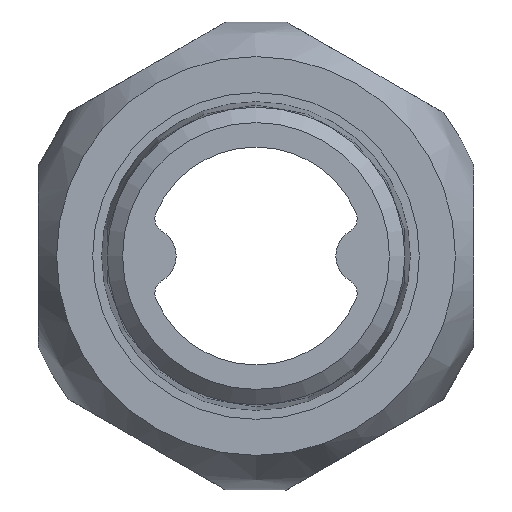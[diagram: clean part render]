
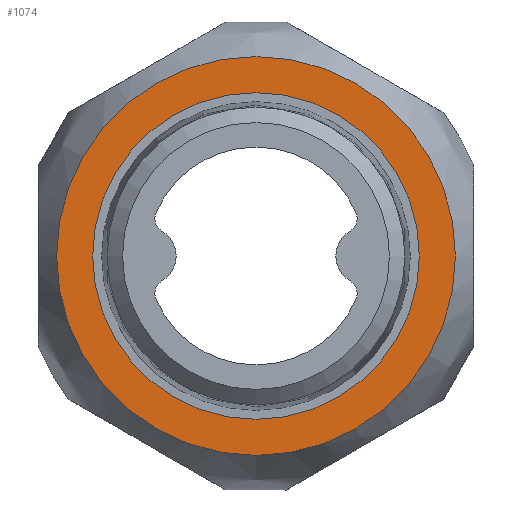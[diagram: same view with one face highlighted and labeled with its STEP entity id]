
A CAD part, left-side view. The second image highlights one B-rep face of the part: STEP entity #1074.
In plain terms, the highlighted planar face has unit normal (-1, 0, 0).
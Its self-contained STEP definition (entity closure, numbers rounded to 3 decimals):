
#88=FACE_BOUND('',#223,.T.);
#105=PLANE('',#1280);
#151=FACE_OUTER_BOUND('',#222,.T.);
#222=EDGE_LOOP('',(#838,#839));
#223=EDGE_LOOP('',(#840,#841));
#384=CIRCLE('',#1272,13.735);
#385=CIRCLE('',#1273,13.735);
#388=CIRCLE('',#1278,11.25);
#389=CIRCLE('',#1279,11.25);
#479=VERTEX_POINT('',#2225);
#480=VERTEX_POINT('',#2229);
#483=VERTEX_POINT('',#2238);
#484=VERTEX_POINT('',#2240);
#609=EDGE_CURVE('',#479,#480,#384,.T.);
#610=EDGE_CURVE('',#480,#479,#385,.T.);
#614=EDGE_CURVE('',#484,#483,#388,.T.);
#615=EDGE_CURVE('',#483,#484,#389,.T.);
#838=ORIENTED_EDGE('',*,*,#610,.F.);
#839=ORIENTED_EDGE('',*,*,#609,.F.);
#840=ORIENTED_EDGE('',*,*,#614,.T.);
#841=ORIENTED_EDGE('',*,*,#615,.T.);
#1074=ADVANCED_FACE('',(#151,#88),#105,.T.);
#1272=AXIS2_PLACEMENT_3D('',#2230,#1509,#1510);
#1273=AXIS2_PLACEMENT_3D('',#2231,#1511,#1512);
#1278=AXIS2_PLACEMENT_3D('',#2241,#1522,#1523);
#1279=AXIS2_PLACEMENT_3D('',#2242,#1524,#1525);
#1280=AXIS2_PLACEMENT_3D('',#2243,#1526,#1527);
#1509=DIRECTION('center_axis',(1.,0.,0.));
#1510=DIRECTION('ref_axis',(0.,1.,0.));
#1511=DIRECTION('center_axis',(1.,0.,0.));
#1512=DIRECTION('ref_axis',(0.,1.,0.));
#1522=DIRECTION('center_axis',(1.,0.,0.));
#1523=DIRECTION('ref_axis',(0.,1.,0.));
#1524=DIRECTION('center_axis',(1.,0.,0.));
#1525=DIRECTION('ref_axis',(0.,1.,0.));
#1526=DIRECTION('center_axis',(-1.,0.,0.));
#1527=DIRECTION('ref_axis',(0.,0.,1.));
#2225=CARTESIAN_POINT('',(0.,0.,13.735));
#2229=CARTESIAN_POINT('',(0.,13.735,0.));
#2230=CARTESIAN_POINT('Origin',(0.,0.,0.));
#2231=CARTESIAN_POINT('Origin',(0.,0.,0.));
#2238=CARTESIAN_POINT('',(0.,-11.25,0.));
#2240=CARTESIAN_POINT('',(0.,11.25,0.));
#2241=CARTESIAN_POINT('Origin',(0.,0.,0.));
#2242=CARTESIAN_POINT('Origin',(0.,0.,0.));
#2243=CARTESIAN_POINT('Origin',(0.,12.493,0.));
